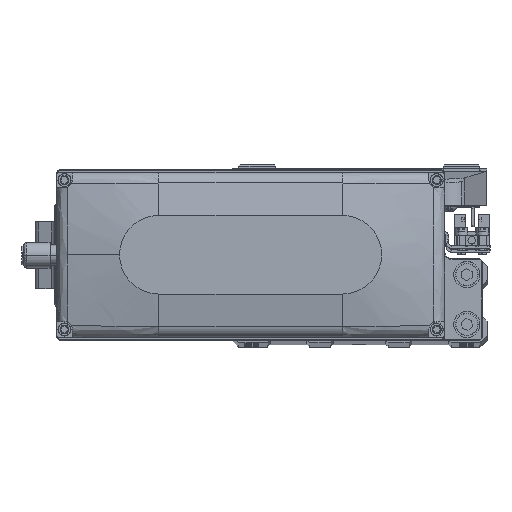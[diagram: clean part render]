
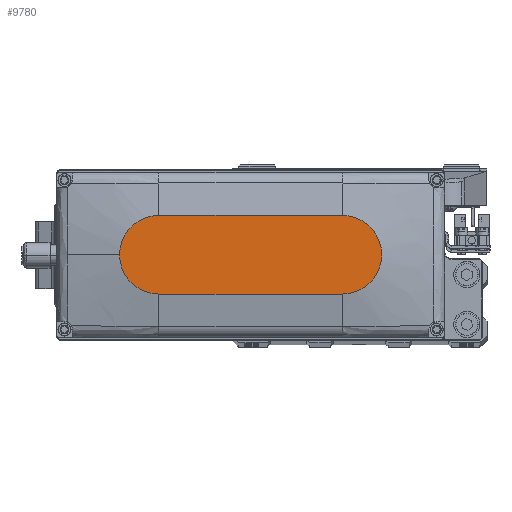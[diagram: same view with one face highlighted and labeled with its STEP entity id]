
A CAD part, top view. The second image highlights one B-rep face of the part: STEP entity #9780.
In plain terms, the highlighted planar face has unit normal (0, 0, 1).
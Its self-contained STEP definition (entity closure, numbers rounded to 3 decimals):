
#2513 = LINE ( 'NONE', #17196, #23736 ) ;
#3816 = DIRECTION ( 'NONE',  ( 0., 0., 1. ) ) ;
#4068 = VERTEX_POINT ( 'NONE', #31606 ) ;
#4805 = DIRECTION ( 'NONE',  ( 1., 0., 0. ) ) ;
#5992 = CARTESIAN_POINT ( 'NONE',  ( -35., 15., 35. ) ) ;
#6968 = CARTESIAN_POINT ( 'NONE',  ( 50., 0., 35. ) ) ;
#9780 = ADVANCED_FACE ( 'NONE', ( #16004 ), #30646, .T. ) ;
#9936 = EDGE_CURVE ( 'NONE', #26547, #16133, #2513, .T. ) ;
#10619 = DIRECTION ( 'NONE',  ( 1., 0., 0. ) ) ;
#12393 = DIRECTION ( 'NONE',  ( 0., 0., 1. ) ) ;
#12561 = AXIS2_PLACEMENT_3D ( 'NONE', #23081, #37721, #4805 ) ;
#13066 = AXIS2_PLACEMENT_3D ( 'NONE', #36745, #3816, #18503 ) ;
#13726 = ORIENTED_EDGE ( 'NONE', *, *, #9936, .T. ) ;
#14365 = DIRECTION ( 'NONE',  ( 1., 0., 0. ) ) ;
#16004 = FACE_OUTER_BOUND ( 'NONE', #24712, .T. ) ;
#16133 = VERTEX_POINT ( 'NONE', #5992 ) ;
#17196 = CARTESIAN_POINT ( 'NONE',  ( -35., 15., 35. ) ) ;
#17281 = EDGE_CURVE ( 'NONE', #31031, #26547, #27138, .T. ) ;
#18503 = DIRECTION ( 'NONE',  ( 1., 0., 0. ) ) ;
#23081 = CARTESIAN_POINT ( 'NONE',  ( 35., 0., 35. ) ) ;
#23736 = VECTOR ( 'NONE', #31825, 1000. ) ;
#24568 = AXIS2_PLACEMENT_3D ( 'NONE', #28866, #43522, #10619 ) ;
#24712 = EDGE_LOOP ( 'NONE', ( #13726, #37309, #41402, #26998, #32570 ) ) ;
#26547 = VERTEX_POINT ( 'NONE', #28951 ) ;
#26998 = ORIENTED_EDGE ( 'NONE', *, *, #32129, .T. ) ;
#27045 = DIRECTION ( 'NONE',  ( 1., 0., 0. ) ) ;
#27138 = CIRCLE ( 'NONE', #12561, 15. ) ;
#28866 = CARTESIAN_POINT ( 'NONE',  ( 35., 0., 35. ) ) ;
#28951 = CARTESIAN_POINT ( 'NONE',  ( 35., 15., 35. ) ) ;
#30646 = PLANE ( 'NONE',  #42876 ) ;
#31031 = VERTEX_POINT ( 'NONE', #6968 ) ;
#31606 = CARTESIAN_POINT ( 'NONE',  ( 35., -15., 35. ) ) ;
#31825 = DIRECTION ( 'NONE',  ( -1., 0., 0. ) ) ;
#32129 = EDGE_CURVE ( 'NONE', #4068, #31031, #45261, .T. ) ;
#32570 = ORIENTED_EDGE ( 'NONE', *, *, #17281, .T. ) ;
#32619 = LINE ( 'NONE', #47271, #35519 ) ;
#33755 = CIRCLE ( 'NONE', #13066, 15. ) ;
#33857 = EDGE_CURVE ( 'NONE', #16133, #37076, #33755, .T. ) ;
#35519 = VECTOR ( 'NONE', #14365, 1000. ) ;
#36745 = CARTESIAN_POINT ( 'NONE',  ( -35., 0., 35. ) ) ;
#37076 = VERTEX_POINT ( 'NONE', #43286 ) ;
#37309 = ORIENTED_EDGE ( 'NONE', *, *, #33857, .T. ) ;
#37721 = DIRECTION ( 'NONE',  ( 0., 0., 1. ) ) ;
#40349 = EDGE_CURVE ( 'NONE', #37076, #4068, #32619, .T. ) ;
#41402 = ORIENTED_EDGE ( 'NONE', *, *, #40349, .T. ) ;
#42876 = AXIS2_PLACEMENT_3D ( 'NONE', #45299, #12393, #27045 ) ;
#43286 = CARTESIAN_POINT ( 'NONE',  ( -35., -15., 35. ) ) ;
#43522 = DIRECTION ( 'NONE',  ( 0., 0., 1. ) ) ;
#45261 = CIRCLE ( 'NONE', #24568, 15. ) ;
#45299 = CARTESIAN_POINT ( 'NONE',  ( 0., 0., 35. ) ) ;
#47271 = CARTESIAN_POINT ( 'NONE',  ( -35., -15., 35. ) ) ;
